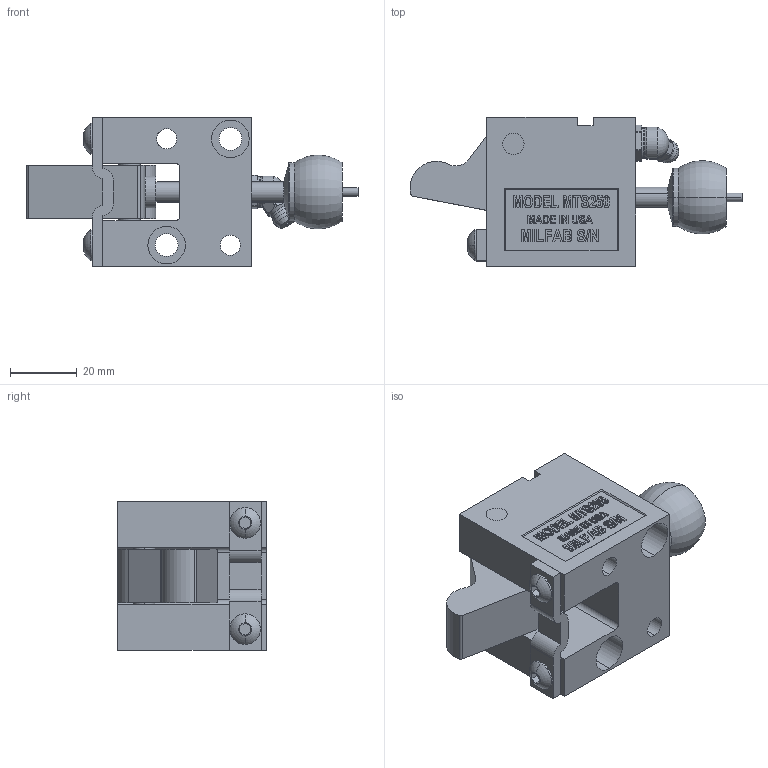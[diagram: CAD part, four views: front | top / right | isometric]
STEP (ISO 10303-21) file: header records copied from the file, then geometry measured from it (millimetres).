
FILE_DESCRIPTION (( 'STEP AP214' ), '1' );
FILE_NAME ('MTS25045-C.STEP', '2014-01-07T23:10:47', ( 'user' ), ( '' ), 'SwSTEP 2.0', 'SolidWorks 2009', '' );
FILE_SCHEMA (( 'AUTOMOTIVE_DESIGN' ));
Length unit declared in the file: inch
Products named in the file (11): MTS25045-C; M-I-250-POINT; MS250-PUNCH; MTS250-BODY; 250-I-STRAP; 250 PIVOT PIN; 250-WASHER; GREASE ZERK; 250 STRIPPER CLOSED; 10-SCREW; 250-OFFSET TRIGGER
Assembly tree (11 placements, depth 2):
  MTS25045-C
    250-WASHER
    MS250-PUNCH
    M-I-250-POINT
    MTS250-BODY
    10-SCREW  x2
    250-OFFSET TRIGGER
    250-I-STRAP
    GREASE ZERK
    250 STRIPPER CLOSED
    250 PIVOT PIN
Bounding box: 99.15 x 44.45 x 44.45 mm (x, y, z)
Volume: 78334 mm3; surface area: 29040.3 mm2
Topology: 11 solids, 11 shells, 594 faces, 1534 edges, 1006 vertices
Faces by surface type: plane 348, bspline 100, cylinder 90, cone 30, torus 26
Entity records: 23753 total; most frequent: CARTESIAN_POINT 9797, ORIENTED_EDGE 2984, DIRECTION 2402, EDGE_CURVE 1492, VECTOR 990, LINE 990, VERTEX_POINT 982, AXIS2_PLACEMENT_3D 706
